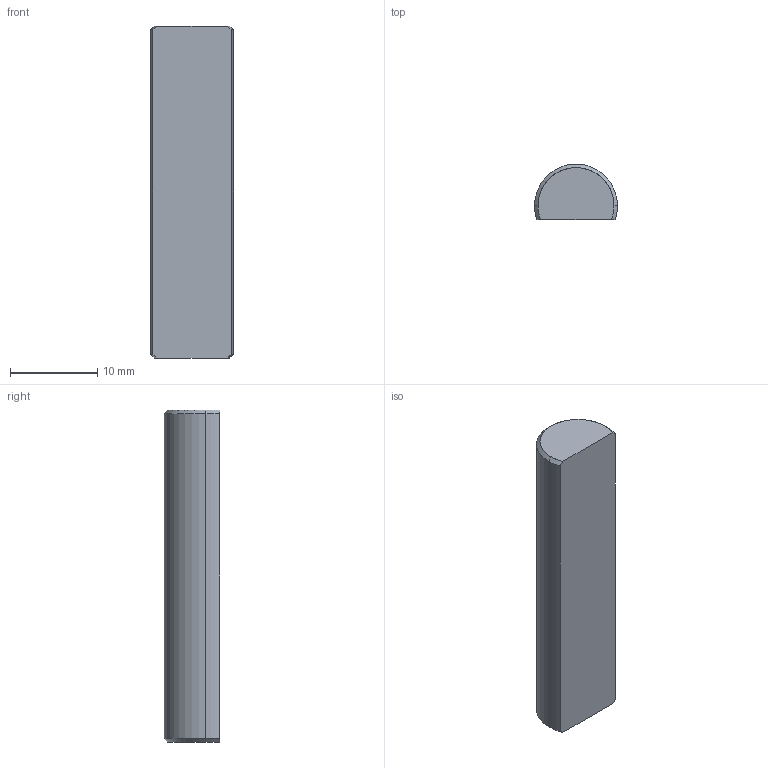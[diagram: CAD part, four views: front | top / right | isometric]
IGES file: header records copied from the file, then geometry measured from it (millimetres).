
Start section: SolidWorks IGES file using analytic representation for surfaces
Global section: file name: D:\Solid_parts\MECHeDESIGN\Bal-Tec\Catalog 105-A\Distribution\IGES\375-TC.IGS; native system: SolidWorks 2005 by SolidWorks Corporation; preprocessor: SolidWorks 2005 by SolidWorks Corporation; author: rvillegas; date: 061205.191200; units: inch
Bounding box: 9.53 x 6.35 x 38.1 mm (x, y, z)
Surface area: 1127.2 mm2 (no closed solid volume)
Topology: 0 solids, 0 shells, 12 faces, 86 edges, 86 vertices
Faces by surface type: revolution 9, bspline 3
